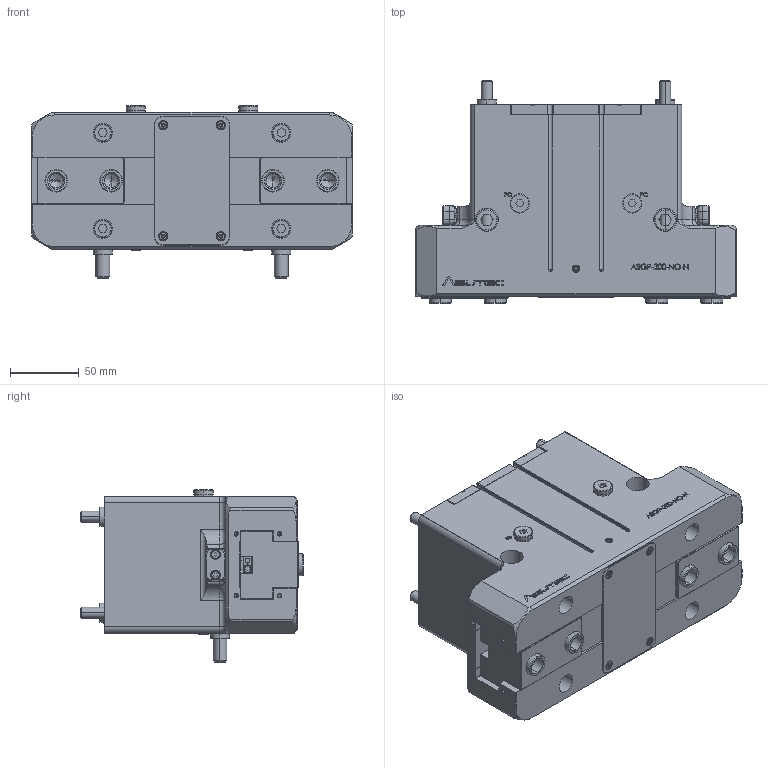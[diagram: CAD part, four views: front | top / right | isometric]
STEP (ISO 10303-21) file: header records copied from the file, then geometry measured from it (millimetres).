
FILE_DESCRIPTION (( 'STEP AP203' ), '1' );
FILE_NAME ('ASUTEC_ASGP-200-NO-N.STEP', '2019-11-09T20:10:30', ( '' ), ( '' ), 'SwSTEP 2.0', 'SolidWorks 2015', '' );
FILE_SCHEMA (( 'CONFIG_CONTROL_DESIGN' ));
Length unit declared in the file: millimetre
Products named in the file (12): Schalterhalter ab ASGP-63; 12000092 O-Ring 5x1_Flanschdichtung <Standard>; 14010000 Blindstopfen G 1_8; Zentrierhuelse-konfigurierbar_D14d10.2L8.5<Standard>; Grundgehäuse-ASGP-200-NX_Step <Standard>; 10000110 M10x100 DIN912; Greiferbacke ASGP-200_ASGP-200-N <Standard>; Abdeckung ASGP-200; 10000128 M8x130 DIN912; Positionsabfrage_links_ASGP-200; ASUTEC_ASGP-200-NO-N; Positionsabfrage_rechts_ASGP-200
Assembly tree (24 placements, depth 2):
  ASUTEC_ASGP-200-NO-N
    Grundgehäuse-ASGP-200-NX_Step <Standard>
    Greiferbacke ASGP-200_ASGP-200-N <Standard>  x2
    Abdeckung ASGP-200
    Positionsabfrage_links_ASGP-200
    Positionsabfrage_rechts_ASGP-200
    Schalterhalter ab ASGP-63  x2
    12000092 O-Ring 5x1_Flanschdichtung <Standard>  x4
    14010000 Blindstopfen G 1_8  x2
    Zentrierhuelse-konfigurierbar_D14d10.2L8.5<Standard>  x4
    10000110 M10x100 DIN912  x2
    10000128 M8x130 DIN912  x4
Bounding box: 234 x 162.25 x 125.6 mm (x, y, z)
Volume: 2439274.3 mm3; surface area: 269860.8 mm2
Topology: 24 solids, 24 shells, 2375 faces, 5777 edges, 3582 vertices
Faces by surface type: cylinder 797, plane 745, cone 504, bspline 163, torus 158, sphere 8
Entity records: 73451 total; most frequent: CARTESIAN_POINT 26478, ORIENTED_EDGE 9750, DIRECTION 8829, EDGE_CURVE 4875, AXIS2_PLACEMENT_3D 3229, VERTEX_POINT 3070, VECTOR 2371, LINE 2371
